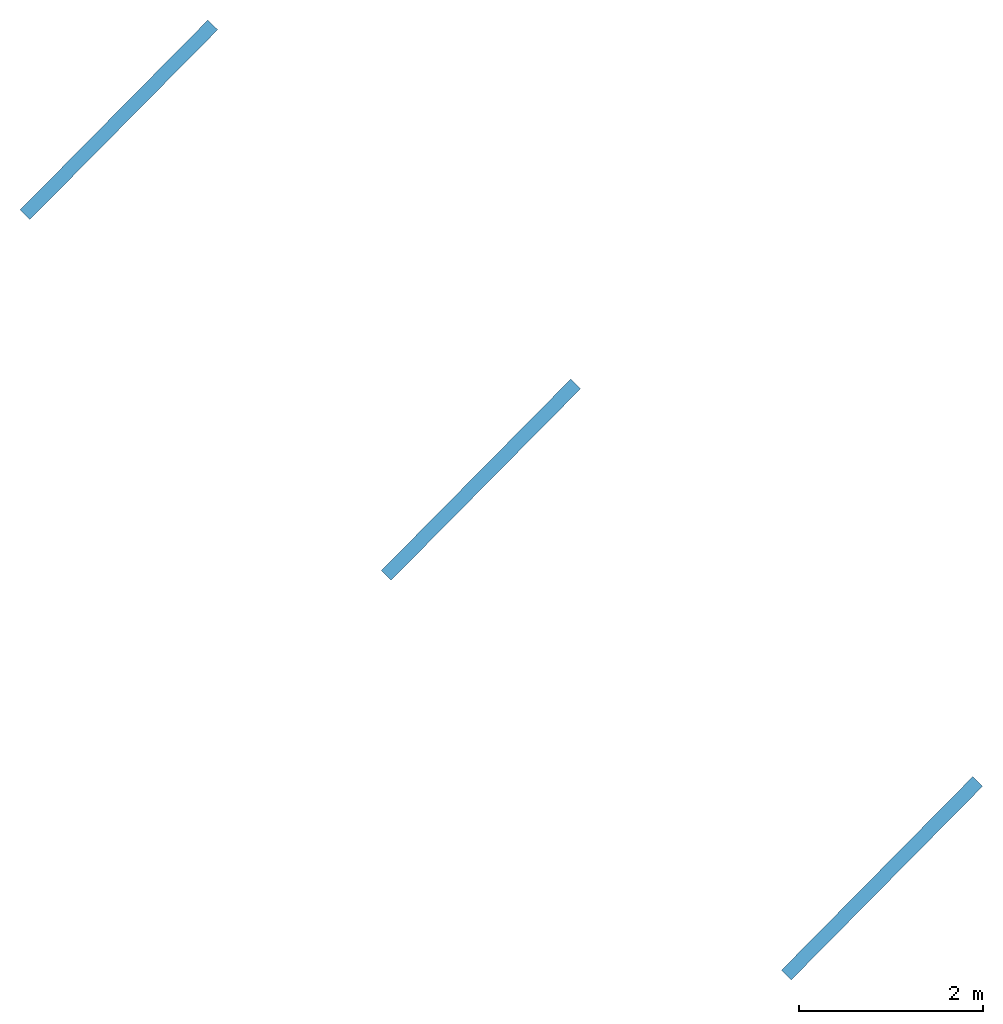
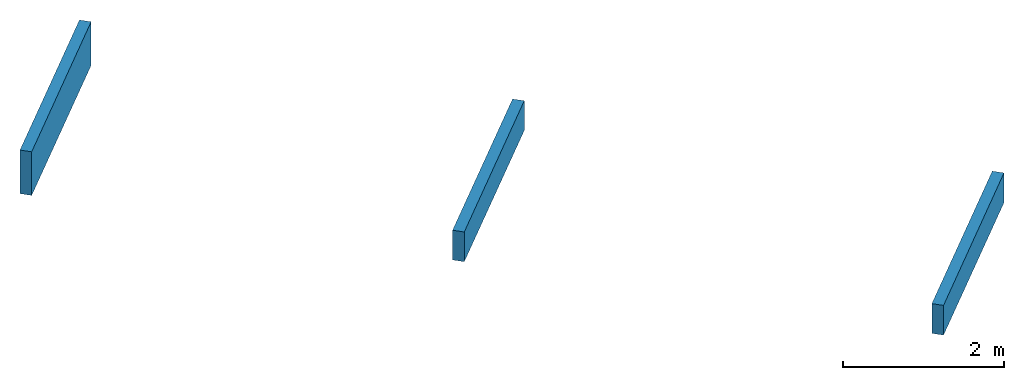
# One storey: 3 walls.
"""IFC2X3 building model written with IfcOpenShell, lengths in millimetres."""

from ifc_helpers import new_model, entity, si_unit, converted_unit, derived_unit, direction, frame, origin, origin_with_axes, place, context, subcontext, project, spatial, faceted_brep, material, layer, layer_set, type_object, element, save


model = new_model("IFC2X3")

# Units and contexts
model_context = context("Model", 3, precision=0.01, world=origin(), true_north=direction((6.12323399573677e-17, 1.0)))
plan_context = context("Plan", 3, precision=1e-05, world=origin_with_axes())
body_context = subcontext(model_context, "Body", "Model", "MODEL_VIEW")
ifc_project = project(units=[converted_unit("PLANEANGLEUNIT", "DEGREE", entity("IfcPositiveLengthMeasure", 0.0174532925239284), si_unit("PLANEANGLEUNIT", "RADIAN"), dimensions=[0, 0, 0, 0, 0, 0, 0]), si_unit("AREAUNIT", "SQUARE_METRE"), si_unit("LENGTHUNIT", "METRE", prefix="MILLI"), si_unit("MASSUNIT", "GRAM", prefix="KILO"), si_unit("POWERUNIT", "WATT"), si_unit("PRESSUREUNIT", "PASCAL", prefix="KILO"), si_unit("FORCEUNIT", "NEWTON", prefix="KILO"), si_unit("ELECTRICVOLTAGEUNIT", "VOLT"), si_unit("ELECTRICCURRENTUNIT", "AMPERE"), si_unit("THERMODYNAMICTEMPERATUREUNIT", "DEGREE_CELSIUS"), si_unit("TIMEUNIT", "SECOND"), si_unit("VOLUMEUNIT", "CUBIC_METRE"), derived_unit("LINEARVELOCITYUNIT", [(si_unit("LENGTHUNIT", "METRE"), 1), (si_unit("TIMEUNIT", "SECOND"), -1)]), derived_unit("VOLUMETRICFLOWRATEUNIT", [(si_unit("VOLUMEUNIT", "CUBIC_METRE"), 1), (si_unit("TIMEUNIT", "SECOND"), -1)]), derived_unit("THERMALTRANSMITTANCEUNIT", [(si_unit("POWERUNIT", "WATT"), 1), (si_unit("THERMODYNAMICTEMPERATUREUNIT", "KELVIN"), -1), (si_unit("AREAUNIT", "SQUARE_METRE"), -1)]), derived_unit("SOUNDPRESSUREUNIT", [(si_unit("PRESSUREUNIT", "PASCAL"), 1)])], contexts=[model_context, plan_context])

# Site, building, storey
site_placement = place(None, frame((0.0, -2.21771188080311e-09, 0.0), z_axis=(0.0, 0.0, 1.0), x_axis=(0.266093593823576, -0.963947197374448, 0.0)))
site = spatial("IfcSite", under=ifc_project, at=site_placement, Name="ENZV", CompositionType="ELEMENT")
building_placement = place(site_placement, origin_with_axes())
building = spatial("IfcBuilding", under=site, at=building_placement, Name="ZV001", CompositionType="ELEMENT")
storey_placement = place(building_placement, frame((0.0, 0.0, 5100.0), z_axis=(0.0, 0.0, 1.0), x_axis=(1.0, 0.0, 0.0)))
storey = spatial("IfcBuildingStorey", under=building, at=storey_placement, Name="H01", CompositionType="ELEMENT", Elevation=5100.0)

# Walls
ifc_material = material(Name="Vegg")
ifc_layer = layer(ifc_material, 150.0)
ifc_layer_set = layer_set([ifc_layer], Name="Basic Wall:Standard - 150mm")
wall_type = type_object("IfcWallType", Name="Basic Wall:Standard - 150mm", PredefinedType="STANDARD", material=ifc_layer_set)
wall_1_placement = place(storey_placement, frame((-256781.123171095, 416640.96114311, 0.0), z_axis=(0.0, 0.0, 1.0), x_axis=(-0.498170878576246, 0.867078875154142, 0.0)))
element("IfcWall", 1, at=wall_1_placement, inside=storey, type_object=wall_type, Name="Basic Wall:Standard - 150mm", ObjectType="Basic Wall:Standard - 150mm", context=body_context, shape_type="Brep", body=[
    faceted_brep([(7424.6217535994, -75.0, 3200.0), (4518.86112927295, -75.0, 3200.0), (4518.86112927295, -75.0, 3860.0), (7424.6217535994, -75.0, 3860.0), (7424.62175356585, 75.0, 3200.0), (7424.62175356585, 75.0, 3860.0), (4519.56421862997, 75.0, 3860.0), (4519.56421862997, 75.0, 3200.0)], [[[0, 1, 2, 3]], [[4, 0, 3, 5]], [[6, 7, 4, 5]], [[2, 6, 5, 3]], [[7, 6, 2, 1]], [[1, 0, 4, 7]]], orient=[[False], [False], [False], [False], [False], [False]]),
])
wall_2_placement = place(storey_placement, frame((-251955.875350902, 419383.253352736, 0.0), z_axis=(0.0, 0.0, 1.0), x_axis=(-0.498170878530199, 0.867078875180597, 0.0)))
element("IfcWall", 2, at=wall_2_placement, inside=storey, type_object=wall_type, Name="Basic Wall:Standard - 150mm", ObjectType="Basic Wall:Standard - 150mm", context=body_context, shape_type="Brep", body=[
    faceted_brep([(7450.63605631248, -75.0, 3200.0), (4518.86112185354, -75.0, 3200.0), (4518.86112185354, -75.0, 3650.0), (7450.63605631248, -75.0, 3650.0), (7450.6360562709, 75.0, 3200.0), (7450.6360562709, 75.0, 3650.0), (4519.56421120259, 75.0, 3650.0), (4519.56421120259, 75.0, 3200.0)], [[[0, 1, 2, 3]], [[4, 0, 3, 5]], [[6, 7, 4, 5]], [[2, 6, 5, 3]], [[7, 6, 2, 1]], [[1, 0, 4, 7]]], orient=[[False], [False], [False], [False], [False], [False]]),
])
wall_3_placement = place(storey_placement, frame((-246608.15693425, 422422.434391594, 0.0), z_axis=(0.0, 0.0, 1.0), x_axis=(-0.498597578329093, 0.866833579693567, 0.0)))
element("IfcWall", 3, at=wall_3_placement, inside=storey, type_object=wall_type, Name="Basic Wall:Standard - 150mm", ObjectType="Basic Wall:Standard - 150mm", context=body_context, shape_type="Brep", body=[
    faceted_brep([(7479.46795544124, -75.0, 3200.0), (4518.87208592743, -75.0, 3200.0), (4518.87208592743, -75.0, 3650.0), (7479.46795544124, -75.0, 3650.0), (7479.54178262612, 75.0, 3200.0), (7479.54178262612, 75.0, 3650.0), (4519.64900429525, 75.0, 3650.0), (4519.64900429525, 74.9999999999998, 3200.0)], [[[0, 1, 2, 3]], [[4, 0, 3, 5]], [[6, 7, 4, 5]], [[2, 6, 5, 3]], [[7, 6, 2, 1]], [[1, 0, 4, 7]]], orient=[[False], [False], [False], [False], [False], [False]]),
])

save(model, "model.ifc")
